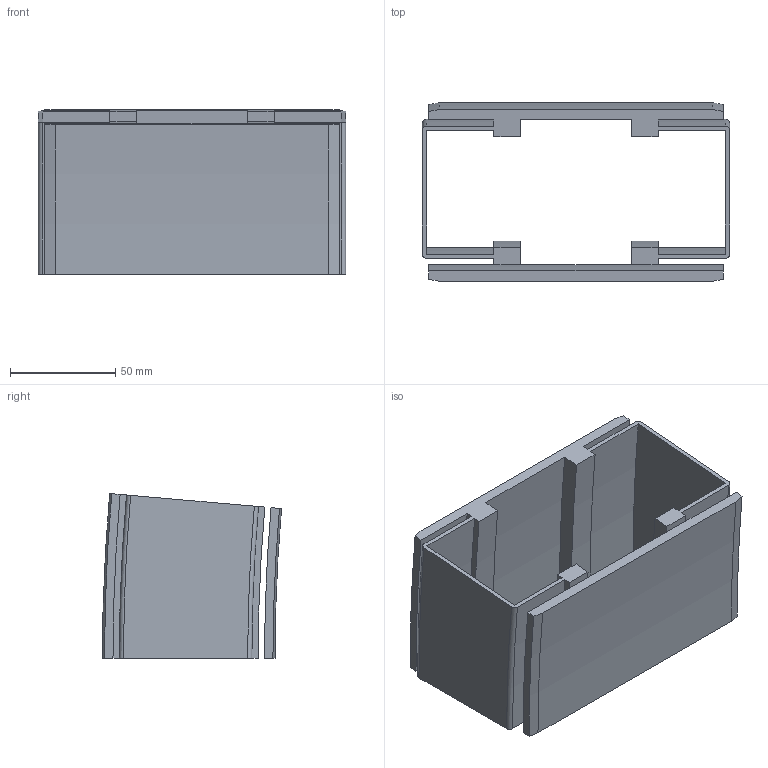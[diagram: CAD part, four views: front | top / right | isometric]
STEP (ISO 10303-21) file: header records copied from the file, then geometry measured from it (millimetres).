
FILE_DESCRIPTION((''),'2;1');
FILE_NAME('C:\Vault Klient\Projekt\Koncept konstruktion\Serie 540 Balk\540-5650_DOWN.stp','2010-11-26T08:25:42',('Mathias'),(''),'Autodesk Inventor 2011','Autodesk Inventor 2011','');
FILE_SCHEMA(('AUTOMOTIVE_DESIGN { 1 0 10303 214 1 1 1 1 }'));
Length unit declared in the file: millimetre
Products named in the file (1): 540-5650_DOWN
Bounding box: 146 x 85.11 x 78.4 mm (x, y, z)
Volume: 172004.6 mm3; surface area: 93451.7 mm2
Topology: 2 solids, 2 shells, 87 faces, 234 edges, 156 vertices
Faces by surface type: plane 38, cylinder 25, bspline 14, cone 6, torus 4
Entity records: 3221 total; most frequent: CARTESIAN_POINT 983, ORIENTED_EDGE 468, DIRECTION 428, EDGE_CURVE 234, VERTEX_POINT 156, AXIS2_PLACEMENT_3D 148, VECTOR 132, LINE 132
